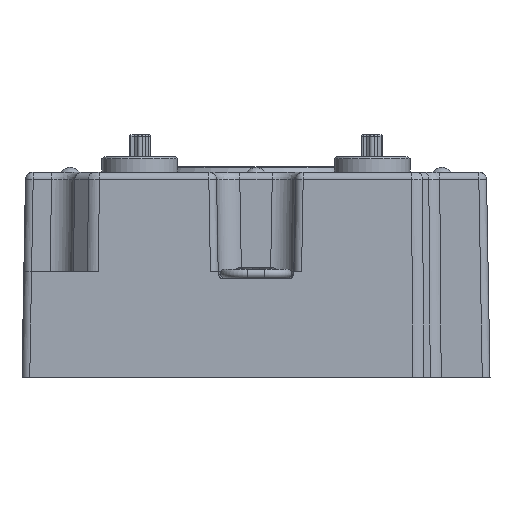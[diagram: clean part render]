
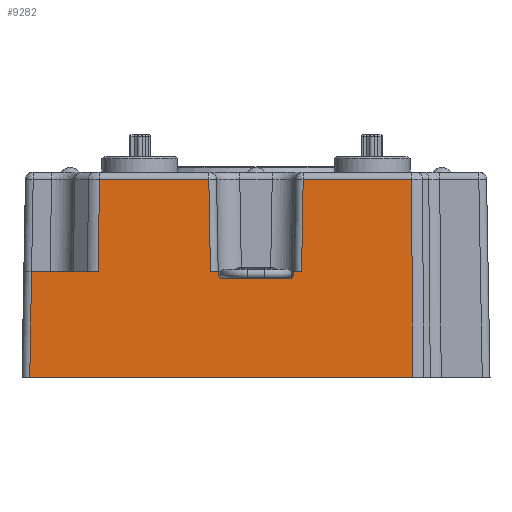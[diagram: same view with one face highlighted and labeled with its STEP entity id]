
A CAD part, left-side view. The second image highlights one B-rep face of the part: STEP entity #9282.
In plain terms, the highlighted planar face has unit normal (-1, 0, 0.018).
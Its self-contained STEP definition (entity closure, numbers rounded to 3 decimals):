
#158=ELLIPSE('',#10054,0.5,0.5);
#159=ELLIPSE('',#10064,0.5,0.5);
#692=LINE('',#14992,#1383);
#762=LINE('',#15197,#1453);
#764=LINE('',#15210,#1455);
#790=LINE('',#15581,#1481);
#794=LINE('',#15588,#1485);
#798=LINE('',#15600,#1489);
#799=LINE('',#15602,#1490);
#800=LINE('',#15604,#1491);
#801=LINE('',#15605,#1492);
#802=LINE('',#15606,#1493);
#803=LINE('',#15608,#1494);
#804=LINE('',#15610,#1495);
#805=LINE('',#15612,#1496);
#806=LINE('',#15613,#1497);
#1383=VECTOR('',#11514,10.);
#1453=VECTOR('',#11706,10.);
#1455=VECTOR('',#11718,10.);
#1481=VECTOR('',#11854,10.);
#1485=VECTOR('',#11860,10.);
#1489=VECTOR('',#11876,10.);
#1490=VECTOR('',#11877,10.);
#1491=VECTOR('',#11878,10.);
#1492=VECTOR('',#11879,10.);
#1493=VECTOR('',#11880,10.);
#1494=VECTOR('',#11881,10.);
#1495=VECTOR('',#11882,10.);
#1496=VECTOR('',#11883,10.);
#1497=VECTOR('',#11884,10.);
#1951=PLANE('',#10074);
#2306=FACE_OUTER_BOUND('',#2847,.T.);
#2847=EDGE_LOOP('',(#7258,#7259,#7260,#7261,#7262,#7263,#7264,#7265,#7266,
#7267,#7268,#7269,#7270,#7271,#7272,#7273));
#4069=VERTEX_POINT('',#14989);
#4070=VERTEX_POINT('',#14991);
#4134=VERTEX_POINT('',#15175);
#4144=VERTEX_POINT('',#15195);
#4149=VERTEX_POINT('',#15207);
#4150=VERTEX_POINT('',#15209);
#4183=VERTEX_POINT('',#15524);
#4187=VERTEX_POINT('',#15570);
#4190=VERTEX_POINT('',#15580);
#4192=VERTEX_POINT('',#15586);
#4194=VERTEX_POINT('',#15599);
#4195=VERTEX_POINT('',#15601);
#4196=VERTEX_POINT('',#15603);
#4197=VERTEX_POINT('',#15607);
#4198=VERTEX_POINT('',#15609);
#4199=VERTEX_POINT('',#15611);
#5099=EDGE_CURVE('',#4070,#4069,#692,.F.);
#5201=EDGE_CURVE('',#4134,#4144,#762,.T.);
#5207=EDGE_CURVE('',#4150,#4149,#764,.T.);
#5264=EDGE_CURVE('',#4183,#4144,#158,.T.);
#5273=EDGE_CURVE('',#4134,#4187,#159,.T.);
#5278=EDGE_CURVE('',#4190,#4187,#790,.T.);
#5282=EDGE_CURVE('',#4183,#4192,#794,.T.);
#5287=EDGE_CURVE('',#4192,#4194,#798,.T.);
#5288=EDGE_CURVE('',#4195,#4194,#799,.T.);
#5289=EDGE_CURVE('',#4196,#4195,#800,.T.);
#5290=EDGE_CURVE('',#4150,#4196,#801,.T.);
#5291=EDGE_CURVE('',#4070,#4149,#802,.T.);
#5292=EDGE_CURVE('',#4197,#4069,#803,.T.);
#5293=EDGE_CURVE('',#4198,#4197,#804,.T.);
#5294=EDGE_CURVE('',#4199,#4198,#805,.T.);
#5295=EDGE_CURVE('',#4199,#4190,#806,.T.);
#7258=ORIENTED_EDGE('',*,*,#5278,.T.);
#7259=ORIENTED_EDGE('',*,*,#5273,.F.);
#7260=ORIENTED_EDGE('',*,*,#5201,.T.);
#7261=ORIENTED_EDGE('',*,*,#5264,.F.);
#7262=ORIENTED_EDGE('',*,*,#5282,.T.);
#7263=ORIENTED_EDGE('',*,*,#5287,.T.);
#7264=ORIENTED_EDGE('',*,*,#5288,.F.);
#7265=ORIENTED_EDGE('',*,*,#5289,.F.);
#7266=ORIENTED_EDGE('',*,*,#5290,.F.);
#7267=ORIENTED_EDGE('',*,*,#5207,.T.);
#7268=ORIENTED_EDGE('',*,*,#5291,.F.);
#7269=ORIENTED_EDGE('',*,*,#5099,.T.);
#7270=ORIENTED_EDGE('',*,*,#5292,.F.);
#7271=ORIENTED_EDGE('',*,*,#5293,.F.);
#7272=ORIENTED_EDGE('',*,*,#5294,.F.);
#7273=ORIENTED_EDGE('',*,*,#5295,.T.);
#9282=ADVANCED_FACE('',(#2306),#1951,.T.);
#10054=AXIS2_PLACEMENT_3D('',#15526,#11820,#11821);
#10064=AXIS2_PLACEMENT_3D('',#15571,#11843,#11844);
#10074=AXIS2_PLACEMENT_3D('',#15598,#11874,#11875);
#11514=DIRECTION('',(0.,1.,0.));
#11706=DIRECTION('',(0.,1.,0.));
#11718=DIRECTION('',(0.,1.,0.));
#11820=DIRECTION('center_axis',(-1.,0.,
0.017));
#11821=DIRECTION('ref_axis',(-0.017,0.,
-1.));
#11843=DIRECTION('center_axis',(-1.,0.,
0.017));
#11844=DIRECTION('ref_axis',(-0.017,0.,-1.));
#11854=DIRECTION('',(-0.017,0.,-1.));
#11860=DIRECTION('',(0.017,0.,1.));
#11874=DIRECTION('center_axis',(-1.,0.,
0.017));
#11875=DIRECTION('ref_axis',(0.017,0.,1.));
#11876=DIRECTION('',(0.,1.,0.));
#11877=DIRECTION('',(-0.017,-0.017,-1.));
#11878=DIRECTION('',(0.,-1.,0.));
#11879=DIRECTION('',(0.017,-0.007,1.));
#11880=DIRECTION('',(0.017,-0.017,1.));
#11881=DIRECTION('',(-0.017,-0.007,-1.));
#11882=DIRECTION('',(0.,-1.,0.));
#11883=DIRECTION('',(0.017,-0.017,1.));
#11884=DIRECTION('',(0.,1.,0.));
#14989=CARTESIAN_POINT('',(-63.231,-20.268,-25.));
#14991=CARTESIAN_POINT('',(-63.231,29.231,-25.));
#14992=CARTESIAN_POINT('',(-63.231,14.865,-25.));
#15175=CARTESIAN_POINT('',(-63.01,-4.3,-12.3));
#15195=CARTESIAN_POINT('',(-63.01,4.3,-12.3));
#15197=CARTESIAN_POINT('',(-63.01,15.,-12.3));
#15207=CARTESIAN_POINT('',(-62.994,28.994,-11.4));
#15209=CARTESIAN_POINT('',(-62.994,20.337,-11.4));
#15210=CARTESIAN_POINT('',(-62.994,28.053,-11.4));
#15524=CARTESIAN_POINT('',(-63.001,4.8,-11.8));
#15526=CARTESIAN_POINT('Origin',(-63.001,4.3,-11.8));
#15570=CARTESIAN_POINT('',(-63.001,-4.8,-11.8));
#15571=CARTESIAN_POINT('Origin',(-63.001,-4.3,-11.8));
#15580=CARTESIAN_POINT('',(-62.994,-4.8,-11.4));
#15581=CARTESIAN_POINT('',(-62.894,-4.8,-5.661));
#15586=CARTESIAN_POINT('',(-62.994,4.8,-11.4));
#15588=CARTESIAN_POINT('',(-62.895,4.8,-5.707));
#15598=CARTESIAN_POINT('Origin',(-62.795,30.,-0.001));
#15599=CARTESIAN_POINT('',(-62.994,5.887,-11.4));
#15600=CARTESIAN_POINT('',(-62.994,15.,-11.4));
#15601=CARTESIAN_POINT('',(-62.786,6.095,0.517));
#15602=CARTESIAN_POINT('',(-62.79,6.091,0.276));
#15603=CARTESIAN_POINT('',(-62.786,20.251,0.517));
#15604=CARTESIAN_POINT('',(-62.786,15.135,0.517));
#15605=CARTESIAN_POINT('',(-62.796,20.255,-0.039));
#15606=CARTESIAN_POINT('',(-62.776,28.777,1.06));
#15607=CARTESIAN_POINT('',(-62.786,-20.083,0.517));
#15608=CARTESIAN_POINT('',(-62.792,-20.085,0.177));
#15609=CARTESIAN_POINT('',(-62.786,-6.095,0.517));
#15610=CARTESIAN_POINT('',(-62.786,15.135,0.517));
#15611=CARTESIAN_POINT('',(-62.994,-5.887,-11.4));
#15612=CARTESIAN_POINT('',(-62.801,-6.081,-0.326));
#15613=CARTESIAN_POINT('',(-62.994,15.,-11.4));
